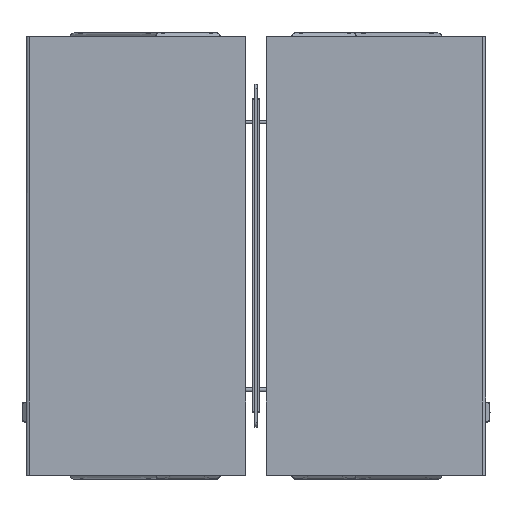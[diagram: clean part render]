
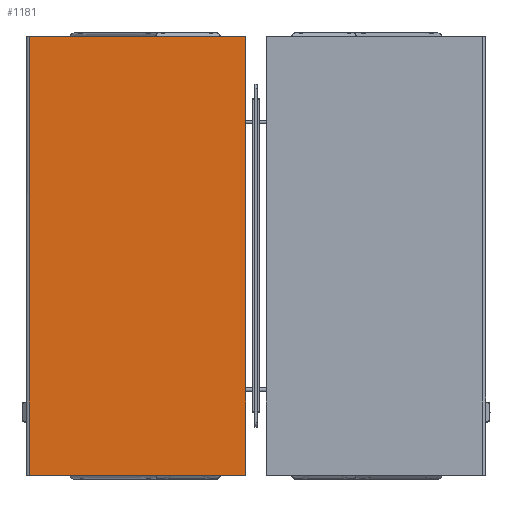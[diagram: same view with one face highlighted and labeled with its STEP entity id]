
A CAD part, top view. The second image highlights one B-rep face of the part: STEP entity #1181.
In plain terms, the highlighted planar face has unit normal (0, 0, 1).
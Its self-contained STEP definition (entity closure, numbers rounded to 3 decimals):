
#1181=ADVANCED_FACE('',(#6017),#75544,.T.);
#6017=FACE_OUTER_BOUND('',#10861,.T.);
#10861=EDGE_LOOP('',(#16327,#16328,#16329,#16330));
#16327=ORIENTED_EDGE('',*,*,#40462,.T.);
#16328=ORIENTED_EDGE('',*,*,#40451,.F.);
#16329=ORIENTED_EDGE('',*,*,#40455,.T.);
#16330=ORIENTED_EDGE('',*,*,#40460,.T.);
#40451=EDGE_CURVE('',#64915,#64916,#57659,.T.);
#40455=EDGE_CURVE('',#64915,#64919,#57661,.T.);
#40460=EDGE_CURVE('',#64919,#64922,#57666,.T.);
#40462=EDGE_CURVE('',#64922,#64916,#57668,.T.);
#57659=B_SPLINE_CURVE_WITH_KNOTS('',1,(#82033,#82034),.UNSPECIFIED.,.F.,
 .F.,(2,2),(0.,1524.),.UNSPECIFIED.);
#57661=B_SPLINE_CURVE_WITH_KNOTS('',1,(#82047,#82048),.UNSPECIFIED.,.F.,
 .F.,(2,2),(-752.5,0.),.UNSPECIFIED.);
#57666=B_SPLINE_CURVE_WITH_KNOTS('',1,(#82057,#82058),.UNSPECIFIED.,.F.,
 .F.,(2,2),(-1524.,0.),.UNSPECIFIED.);
#57668=B_SPLINE_CURVE_WITH_KNOTS('',1,(#82061,#82062),.UNSPECIFIED.,.F.,
 .F.,(2,2),(-752.5,0.),.UNSPECIFIED.);
#64915=VERTEX_POINT('',#82025);
#64916=VERTEX_POINT('',#82026);
#64919=VERTEX_POINT('',#82029);
#64922=VERTEX_POINT('',#82032);
#75544=PLANE('',#77188);
#77188=AXIS2_PLACEMENT_3D('',#82023,#78816,$);
#78816=DIRECTION('',(0.,0.,1.));
#82023=CARTESIAN_POINT('',(225.25,1581.936,133.692));
#82025=CARTESIAN_POINT('',(-602.5,-94.464,133.692));
#82026=CARTESIAN_POINT('',(-602.5,1429.536,133.692));
#82029=CARTESIAN_POINT('',(150.,-94.464,133.692));
#82032=CARTESIAN_POINT('',(150.,1429.536,133.692));
#82033=CARTESIAN_POINT('',(-602.5,-94.464,133.692));
#82034=CARTESIAN_POINT('',(-602.5,1429.536,133.692));
#82047=CARTESIAN_POINT('',(-602.5,-94.464,133.692));
#82048=CARTESIAN_POINT('',(150.,-94.464,133.692));
#82057=CARTESIAN_POINT('',(150.,-94.464,133.692));
#82058=CARTESIAN_POINT('',(150.,1429.536,133.692));
#82061=CARTESIAN_POINT('',(150.,1429.536,133.692));
#82062=CARTESIAN_POINT('',(-602.5,1429.536,133.692));
